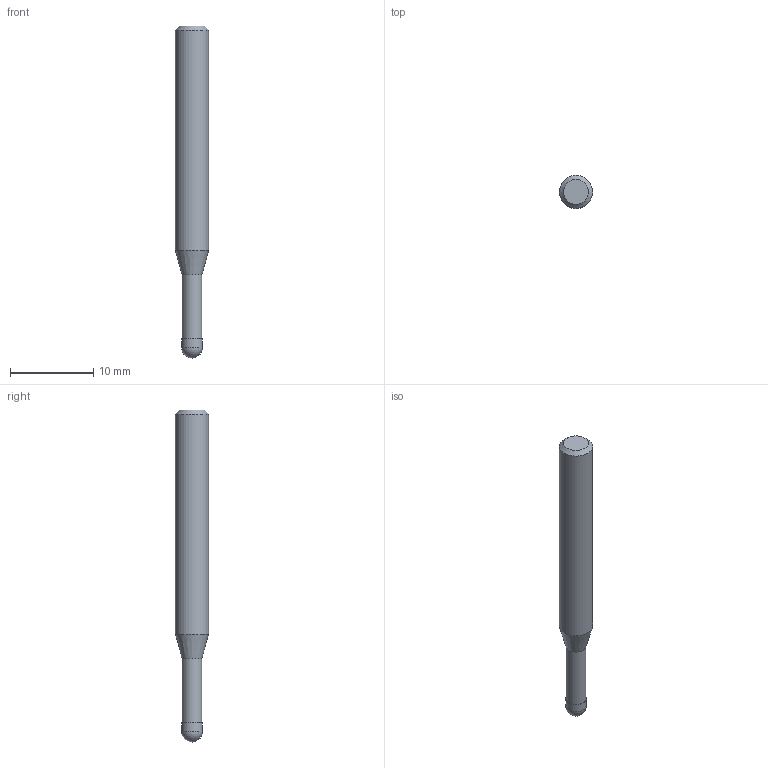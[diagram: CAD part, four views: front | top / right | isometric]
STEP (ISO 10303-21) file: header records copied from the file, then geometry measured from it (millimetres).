
FILE_DESCRIPTION((''),'2;1');
FILE_NAME('C:\Users\nsx150\AppData\Local\Temp\Mastercam 2021\QT8KEW0Y7J\TEMP.step','2021-04-23T11:21:39',(''),(''),'STEP Write','Mastercam 2021 ... CNC Software, Inc.','');
FILE_SCHEMA(('AUTOMOTIVE_DESIGN'));
Length unit declared in the file: millimetre
Products named in the file (1): None
Bounding box: 4 x 4 x 40 mm (x, y, z)
Volume: 406.6 mm3; surface area: 464.7 mm2
Topology: 2 solids, 2 shells, 9 faces, 14 edges, 8 vertices
Faces by surface type: plane 3, cylinder 3, cone 2, sphere 1
Full cylindrical faces by diameter (mm): 2.4 x1, 2.5 x1, 4 x1
Entity records: 211 total; most frequent: DIRECTION 36, CARTESIAN_POINT 25, AXIS2_PLACEMENT_3D 18, ORIENTED_EDGE 14, EDGE_LOOP 14, STYLED_ITEM 12, ADVANCED_FACE 9, FACE_BOUND 8
